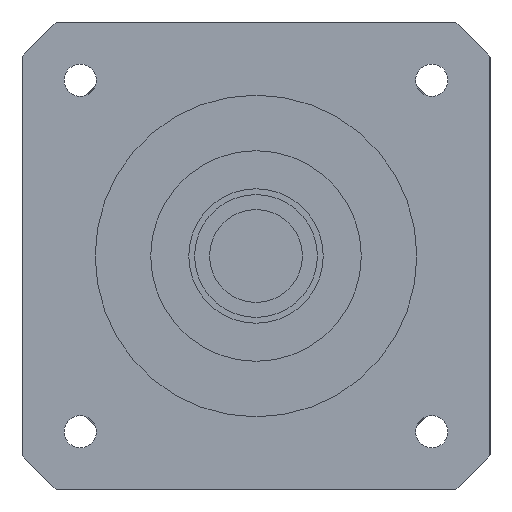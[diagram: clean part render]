
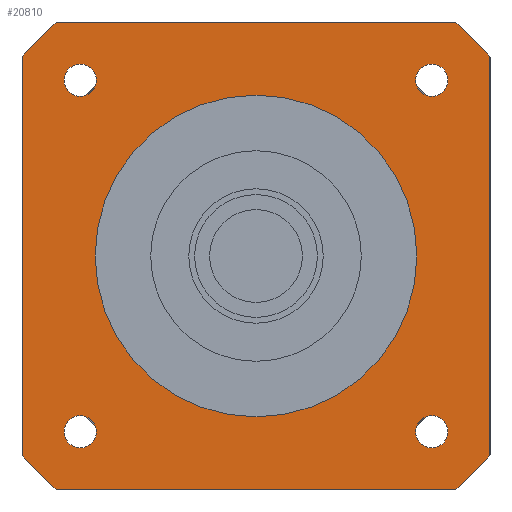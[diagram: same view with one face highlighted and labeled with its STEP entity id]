
A CAD part, left-side view. The second image highlights one B-rep face of the part: STEP entity #20810.
In plain terms, the highlighted planar face has unit normal (-1, 0, 0) as drawn and (0, 0, -1) by its records, which use the part's own axes.
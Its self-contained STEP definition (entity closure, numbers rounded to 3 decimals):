
#19180=CARTESIAN_POINT('',(-30.052,-27.302,-42.));
#19190=VERTEX_POINT('',#19180);
#19270=CARTESIAN_POINT('',(-30.052,-32.802,-42.));
#19280=VERTEX_POINT('',#19270);
#19310=CARTESIAN_POINT('',(-30.052,-30.052,-42.));
#19320=DIRECTION('',(0.,0.,1.));
#19330=DIRECTION('',(0.,1.,0.));
#19340=AXIS2_PLACEMENT_3D('',#19310,#19320,#19330);
#19350=CIRCLE('',#19340,2.75);
#19360=EDGE_CURVE('',#19280,#19190,#19350,.T.);
#19410=CARTESIAN_POINT('',(40.,-40.,-42.));
#19420=DIRECTION('',(0.,0.,1.));
#19430=DIRECTION('',(0.,1.,0.));
#19440=AXIS2_PLACEMENT_3D('',#19410,#19420,#19430);
#19450=PLANE('',#19440);
#19460=EDGE_CURVE('',#19190,#19280,#19350,.T.);
#19470=ORIENTED_EDGE('',*,*,#19460,.T.);
#19480=ORIENTED_EDGE('',*,*,#19360,.T.);
#19490=EDGE_LOOP('',(#19480,#19470));
#19500=FACE_BOUND('',#19490,.T.);
#19510=CARTESIAN_POINT('',(30.052,30.052,-42.));
#19520=DIRECTION('',(0.,0.,1.));
#19530=DIRECTION('',(0.,1.,0.));
#19540=AXIS2_PLACEMENT_3D('',#19510,#19520,#19530);
#19550=CIRCLE('',#19540,2.75);
#19560=CARTESIAN_POINT('',(30.052,32.802,-42.));
#19570=VERTEX_POINT('',#19560);
#19580=CARTESIAN_POINT('',(30.052,27.302,-42.));
#19590=VERTEX_POINT('',#19580);
#19600=EDGE_CURVE('',#19570,#19590,#19550,.T.);
#19610=ORIENTED_EDGE('',*,*,#19600,.T.);
#19620=EDGE_CURVE('',#19590,#19570,#19550,.T.);
#19630=ORIENTED_EDGE('',*,*,#19620,.T.);
#19640=EDGE_LOOP('',(#19630,#19610));
#19650=FACE_BOUND('',#19640,.T.);
#19660=CARTESIAN_POINT('',(-30.052,30.052,-42.));
#19670=DIRECTION('',(0.,0.,1.));
#19680=DIRECTION('',(0.,1.,0.));
#19690=AXIS2_PLACEMENT_3D('',#19660,#19670,#19680);
#19700=CIRCLE('',#19690,2.75);
#19710=CARTESIAN_POINT('',(-30.052,32.802,-42.));
#19720=VERTEX_POINT('',#19710);
#19730=CARTESIAN_POINT('',(-30.052,27.302,-42.));
#19740=VERTEX_POINT('',#19730);
#19750=EDGE_CURVE('',#19720,#19740,#19700,.T.);
#19760=ORIENTED_EDGE('',*,*,#19750,.T.);
#19770=EDGE_CURVE('',#19740,#19720,#19700,.T.);
#19780=ORIENTED_EDGE('',*,*,#19770,.T.);
#19790=EDGE_LOOP('',(#19780,#19760));
#19800=FACE_BOUND('',#19790,.T.);
#19810=CARTESIAN_POINT('',(0.,0.,
-42.));
#19820=DIRECTION('',(0.,0.,1.));
#19830=DIRECTION('',(0.,-1.,0.));
#19840=AXIS2_PLACEMENT_3D('',#19810,#19820,#19830);
#19850=CIRCLE('',#19840,27.5);
#19860=CARTESIAN_POINT('',(0.,-27.5,-42.));
#19870=VERTEX_POINT('',#19860);
#19880=CARTESIAN_POINT('',(0.,27.5,-42.));
#19890=VERTEX_POINT('',#19880);
#19900=EDGE_CURVE('',#19870,#19890,#19850,.T.);
#19910=ORIENTED_EDGE('',*,*,#19900,.T.);
#19920=EDGE_CURVE('',#19890,#19870,#19850,.T.);
#19930=ORIENTED_EDGE('',*,*,#19920,.T.);
#19940=EDGE_LOOP('',(#19930,#19910));
#19950=FACE_BOUND('',#19940,.T.);
#19960=CARTESIAN_POINT('',(30.052,-30.052,-42.));
#19970=DIRECTION('',(0.,0.,1.));
#19980=DIRECTION('',(0.,1.,0.));
#19990=AXIS2_PLACEMENT_3D('',#19960,#19970,#19980);
#20000=CIRCLE('',#19990,2.75);
#20010=CARTESIAN_POINT('',(30.052,-27.302,-42.));
#20020=VERTEX_POINT('',#20010);
#20030=CARTESIAN_POINT('',(30.052,-32.802,-42.));
#20040=VERTEX_POINT('',#20030);
#20050=EDGE_CURVE('',#20020,#20040,#20000,.T.);
#20060=ORIENTED_EDGE('',*,*,#20050,.T.);
#20070=EDGE_CURVE('',#20040,#20020,#20000,.T.);
#20080=ORIENTED_EDGE('',*,*,#20070,.T.);
#20090=EDGE_LOOP('',(#20080,#20060));
#20100=FACE_BOUND('',#20090,.T.);
#20110=CARTESIAN_POINT('',(0.,0.,
-42.));
#20120=DIRECTION('',(0.,0.,1.));
#20130=DIRECTION('',(0.,1.,0.));
#20140=AXIS2_PLACEMENT_3D('',#20110,#20120,#20130);
#20150=CIRCLE('',#20140,52.5);
#20160=CARTESIAN_POINT('',(-34.004,40.,-42.));
#20170=VERTEX_POINT('',#20160);
#20180=CARTESIAN_POINT('',(-40.,34.004,-42.));
#20190=VERTEX_POINT('',#20180);
#20200=EDGE_CURVE('',#20170,#20190,#20150,.T.);
#20210=ORIENTED_EDGE('',*,*,#20200,.F.);
#20220=CARTESIAN_POINT('',(-40.,40.,-42.));
#20230=DIRECTION('',(0.,-1.,0.));
#20240=VECTOR('',#20230,1000.);
#20250=LINE('',#20220,#20240);
#20260=CARTESIAN_POINT('',(-40.,-34.004,-42.));
#20270=VERTEX_POINT('',#20260);
#20280=EDGE_CURVE('',#20190,#20270,#20250,.T.);
#20290=ORIENTED_EDGE('',*,*,#20280,.F.);
#20300=CARTESIAN_POINT('',(0.,0.,
-42.));
#20310=DIRECTION('',(0.,0.,1.));
#20320=DIRECTION('',(0.,1.,0.));
#20330=AXIS2_PLACEMENT_3D('',#20300,#20310,#20320);
#20340=CIRCLE('',#20330,52.5);
#20350=CARTESIAN_POINT('',(-34.004,-40.,-42.));
#20360=VERTEX_POINT('',#20350);
#20370=EDGE_CURVE('',#20270,#20360,#20340,.T.);
#20380=ORIENTED_EDGE('',*,*,#20370,.F.);
#20390=CARTESIAN_POINT('',(-40.,-40.,-42.));
#20400=DIRECTION('',(1.,0.,0.));
#20410=VECTOR('',#20400,1000.);
#20420=LINE('',#20390,#20410);
#20430=CARTESIAN_POINT('',(34.004,-40.,-42.));
#20440=VERTEX_POINT('',#20430);
#20450=EDGE_CURVE('',#20360,#20440,#20420,.T.);
#20460=ORIENTED_EDGE('',*,*,#20450,.F.);
#20470=CARTESIAN_POINT('',(0.,0.,
-42.));
#20480=DIRECTION('',(0.,0.,1.));
#20490=DIRECTION('',(0.,1.,0.));
#20500=AXIS2_PLACEMENT_3D('',#20470,#20480,#20490);
#20510=CIRCLE('',#20500,52.5);
#20520=CARTESIAN_POINT('',(40.,-34.004,-42.));
#20530=VERTEX_POINT('',#20520);
#20540=EDGE_CURVE('',#20440,#20530,#20510,.T.);
#20550=ORIENTED_EDGE('',*,*,#20540,.F.);
#20560=CARTESIAN_POINT('',(40.,-40.,-42.));
#20570=DIRECTION('',(0.,1.,0.));
#20580=VECTOR('',#20570,1000.);
#20590=LINE('',#20560,#20580);
#20600=CARTESIAN_POINT('',(40.,34.004,-42.));
#20610=VERTEX_POINT('',#20600);
#20620=EDGE_CURVE('',#20530,#20610,#20590,.T.);
#20630=ORIENTED_EDGE('',*,*,#20620,.F.);
#20640=CARTESIAN_POINT('',(0.,0.,
-42.));
#20650=DIRECTION('',(0.,0.,1.));
#20660=DIRECTION('',(0.,1.,0.));
#20670=AXIS2_PLACEMENT_3D('',#20640,#20650,#20660);
#20680=CIRCLE('',#20670,52.5);
#20690=CARTESIAN_POINT('',(34.004,40.,-42.));
#20700=VERTEX_POINT('',#20690);
#20710=EDGE_CURVE('',#20610,#20700,#20680,.T.);
#20720=ORIENTED_EDGE('',*,*,#20710,.F.);
#20730=CARTESIAN_POINT('',(40.,40.,-42.));
#20740=DIRECTION('',(-1.,0.,0.));
#20750=VECTOR('',#20740,1000.);
#20760=LINE('',#20730,#20750);
#20770=EDGE_CURVE('',#20700,#20170,#20760,.T.);
#20780=ORIENTED_EDGE('',*,*,#20770,.F.);
#20790=EDGE_LOOP('',(#20780,#20720,#20630,#20550,#20460,#20380,#20290,
#20210));
#20800=FACE_OUTER_BOUND('',#20790,.T.);
#20810=ADVANCED_FACE('',(#19500,#19650,#19800,#19950,#20100,#20800),
#19450,.F.);
